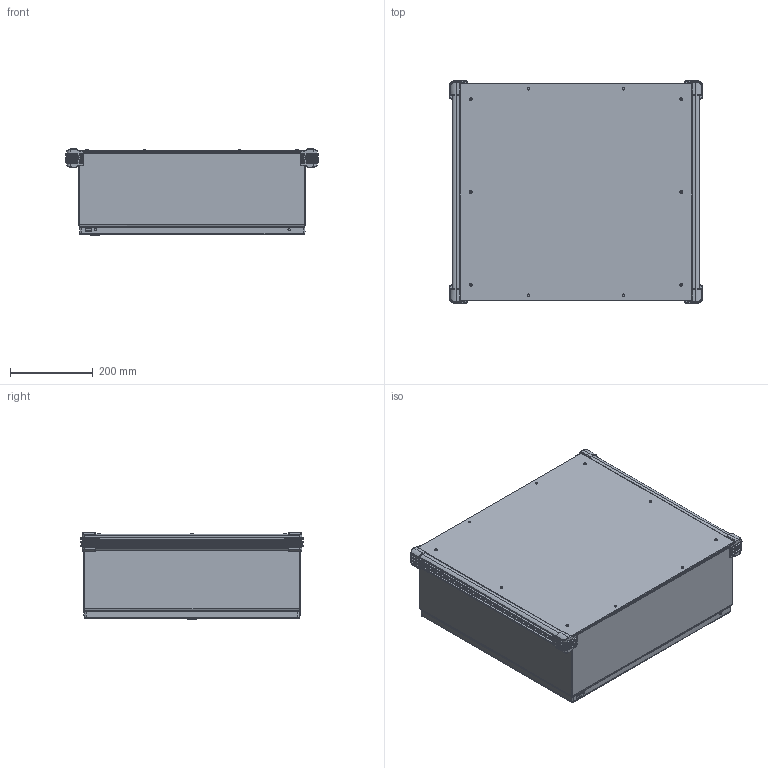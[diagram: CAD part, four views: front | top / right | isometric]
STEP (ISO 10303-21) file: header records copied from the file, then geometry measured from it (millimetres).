
FILE_DESCRIPTION (( 'STEP AP203' ), '1' );
FILE_NAME ('cp525518.STEP', '2012-06-08T20:02:04', ( 'User' ), ( 'Pentair Inc' ), 'SwSTEP 2.0', 'SolidWorks 2010', '' );
FILE_SCHEMA (( 'CONFIG_CONTROL_DESIGN' ));
Products named in the file (38): 87543027; 89076399; 89076193; 89056623; 87789744_ASSEMBLED; 89061400; 87792578; 87792576; 99416066; 87929507; 87929767; 87929769_Installed on Pin; cp525518; 89061136; 87789265_default; 99401225_Config-Drawing; 87938529_assy; 87938553_fip; 87938505; 87931362_87931362; 99401225; 87938566_87926013; 87921906_After Weld; 64101001; 64201001; 87541994_Installed Height; 87541995; 64202001; 64210001; 64203001; 87927840_87927840; 87932903; 64138001; 89061097; 87789225; 87541671_87541671; 87789177; 87789150
Assembly tree (77 placements, depth 4):
  cp525518
    99416066  x6
    87929507  x2
      87929767
      87929769_Installed on Pin
    87792576  x6
    87543027  x2
    89076399  x2
      89056623
      89076193
    87792578  x6
    89061136
      99401225_Config-Drawing  x3
      87789265_default
    87938529_assy
      87932903  x2
      64101001
        64202001
        87541994_Installed Height
        64203001
        64201001
        87541995
        87927840_87927840
        64210001
      87938553_fip
        87938566_87926013
        87921906_After Weld  x4
        99401225
        87931362_87931362  x2
        87938505
      64138001  x2
    87789150  x4
    87789177  x2
    89061097
      87541671_87541671  x10
      87789225
    87789744_ASSEMBLED
      89061400  x2
Bounding box: 614.3 x 538.89 x 209.3 mm (x, y, z)
Volume: 3207547.3 mm3; surface area: 2723544.7 mm2
Topology: 72 solids, 72 shells, 4366 faces, 11007 edges, 6766 vertices
Faces by surface type: plane 1777, cylinder 1425, bspline 444, torus 374, cone 294, sphere 52
Entity records: 68869 total; most frequent: CARTESIAN_POINT 21021, ORIENTED_EDGE 9156, DIRECTION 8613, EDGE_CURVE 4578, AXIS2_PLACEMENT_3D 3172, VERTEX_POINT 2832, VECTOR 2269, LINE 2269
